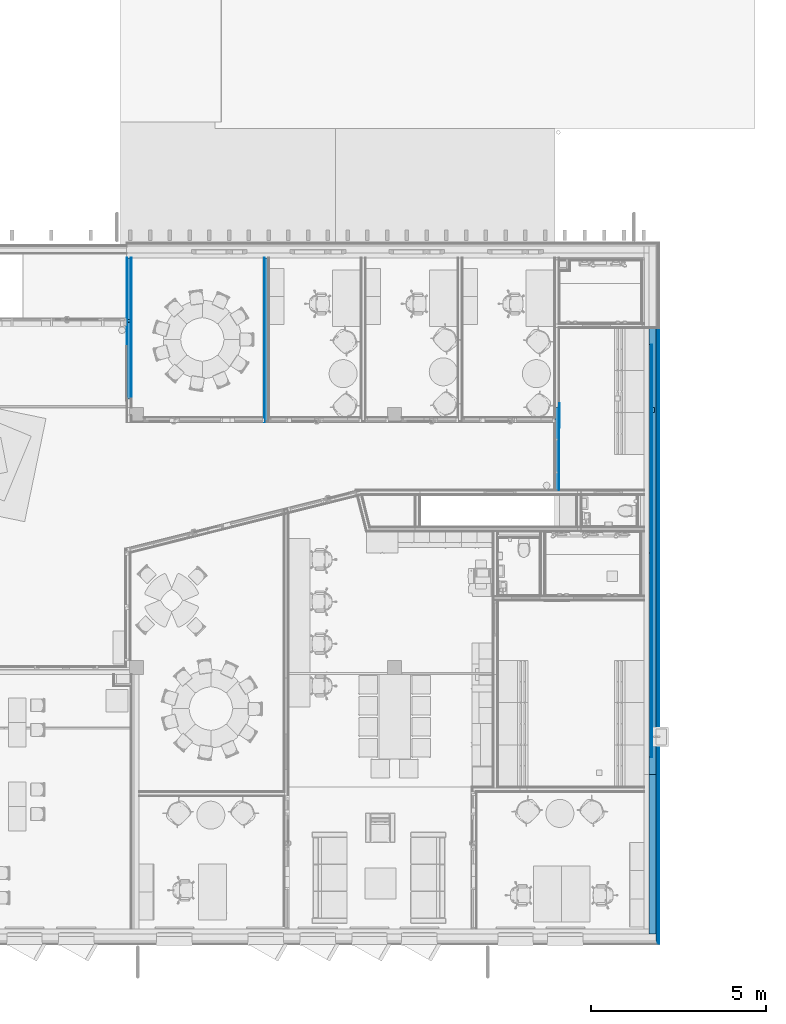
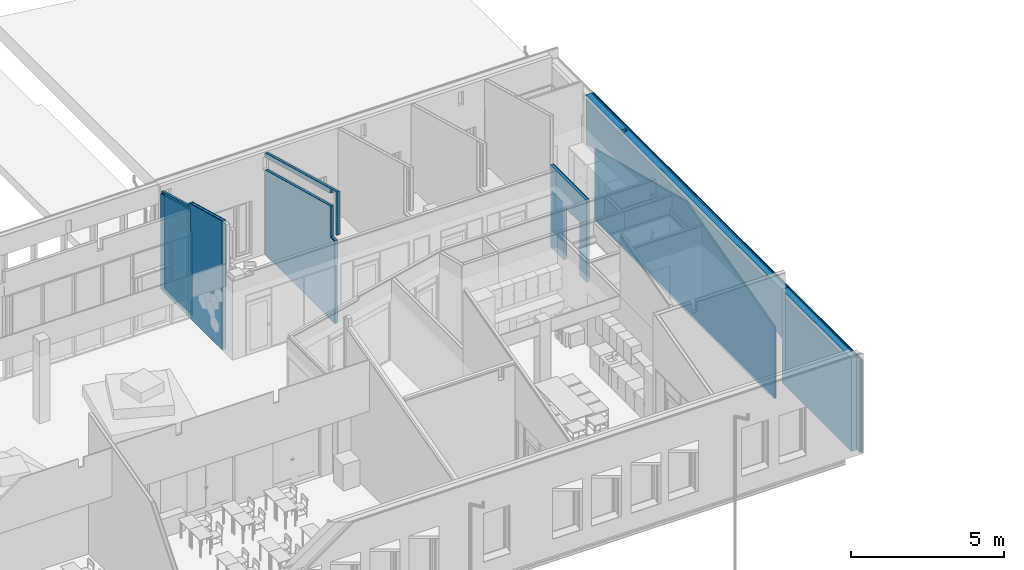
# One storey, part 86 of 153: 26 building element parts, 1 discrete accessory, 1 opening, 7 elements without a shape of their own.
"""IFC2X3 building model written with IfcOpenShell, lengths in millimetres."""

from ifc_helpers import new_model, entity, si_unit, converted_unit, derived_unit, money_unit, direction, frame, origin_with_axes, place, context, subcontext, project, spatial, faceted_brep, material, type_object, element, aggregate, save


model = new_model("IFC2X3")

# Units and contexts
model_context = context("Model", 3, precision=0.01, world=origin_with_axes(), true_north=direction((0.0, 1.0)))
body_context = subcontext(model_context, "Body", "Model", "MODEL_VIEW")
ifc_project = project(units=[si_unit("LENGTHUNIT", "METRE", prefix="MILLI"), si_unit("AREAUNIT", "SQUARE_METRE"), si_unit("VOLUMEUNIT", "CUBIC_METRE"), converted_unit("PLANEANGLEUNIT", "DEGREE", entity("IfcPlaneAngleMeasure", 0.0174532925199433), si_unit("PLANEANGLEUNIT", "RADIAN"), dimensions=[0, 0, 0, 0, 0, 0, 0]), money_unit("EUR"), converted_unit("TIMEUNIT", "Year", entity("IfcTimeMeasure", 31557600.0), si_unit("TIMEUNIT", "SECOND"), dimensions=[0, 0, 1, 0, 0, 0, 0]), si_unit("MASSUNIT", "GRAM", prefix="KILO"), si_unit("THERMODYNAMICTEMPERATUREUNIT", "DEGREE_CELSIUS"), si_unit("LUMINOUSINTENSITYUNIT", "LUMEN"), si_unit("ENERGYUNIT", "JOULE", prefix="MEGA"), derived_unit("THERMALCONDUCTANCEUNIT", [(si_unit("POWERUNIT", "WATT"), 1), (si_unit("LENGTHUNIT", "METRE"), -1), (si_unit("THERMODYNAMICTEMPERATUREUNIT", "KELVIN"), -1)]), derived_unit("SPECIFICHEATCAPACITYUNIT", [(si_unit("ENERGYUNIT", "JOULE"), 1), (si_unit("MASSUNIT", "GRAM", prefix="KILO"), -1), (si_unit("THERMODYNAMICTEMPERATUREUNIT", "KELVIN"), -1)]), derived_unit("MASSDENSITYUNIT", [(si_unit("MASSUNIT", "GRAM", prefix="KILO"), 1), (si_unit("VOLUMEUNIT", "CUBIC_METRE"), -1)])], contexts=[model_context])

# Site, building, storey
site_placement = place(None, frame((0.0, 0.0, 8650.0), z_axis=(0.0, 0.0, 1.0), x_axis=(1.0, 0.0, 0.0)))
site = spatial("IfcSite", under=ifc_project, at=site_placement, Name="43301:001:0844", CompositionType="ELEMENT")
building_placement = place(site_placement, origin_with_axes())
building = spatial("IfcBuilding", under=site, at=building_placement, Name="Kuressaare Ametikooli tuulikute mehaanikute õppekorpus", CompositionType="ELEMENT")
storey_placement = place(building_placement, frame((0.0, 0.0, 4100.0), z_axis=(0.0, 0.0, 1.0), x_axis=(1.0, 0.0, 0.0)))
storey = spatial("IfcBuildingStorey", under=building, at=storey_placement, Name="2.korrus", CompositionType="ELEMENT", Elevation=4100.0)

# Discrete accessory
ifc_material_1 = material(Name="GENEERILINE - SISEMINE VOODER")
discrete_accessory_type = type_object("IfcDiscreteAccessoryType", Name="GENEERILINE - SISEMINE VOODER 10")
discrete_accessory_placement = place(storey_placement, frame((130625.0683571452, 23404.06893436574, 500.0), z_axis=(0.0, 0.0, 1.0), x_axis=(-1.041563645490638e-06, 0.9999999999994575, 0.0)))
element("IfcDiscreteAccessory", 1, at=discrete_accessory_placement, inside=storey, type_object=discrete_accessory_type, material=ifc_material_1, Name="P3", context=body_context, shape_type="Brep", body=[
    faceted_brep([(0.0, 0.0, 1600.0), (699.9999999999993, 0.0, 1600.0), (700.0000000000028, 9.999999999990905, 1600.0), (0.0, 9.999999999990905, 1600.0), (0.0, 0.0, 0.0), (699.9999999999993, 0.0, 0.0), (700.0000000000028, 9.999999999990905, 0.0), (0.0, 9.999999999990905, 0.0)], [[[0, 1, 2, 3]], [[4, 5, 1, 0]], [[2, 1, 5, 6]], [[3, 2, 6, 7]], [[4, 0, 3, 7]], [[7, 6, 5, 4]]]),
])

# Wall, building element parts
wall_type_1 = type_object("IfcWallType", Name="VS1 437", PredefinedType="NOTDEFINED")
wall_1_placement = place(storey_placement, frame((133024.9464386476, 9123.838490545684, 0.0), z_axis=(0.0, 0.0, 1.0), x_axis=(0.0, 1.0, 0.0)))
wall_1 = element("IfcWall", 2, at=wall_1_placement, inside=storey, type_object=wall_type_1, Name="Sisesein")
ifc_material_2 = material(Name="Soojustus - Mineraalvill jäik")
building_element_part_1_placement = place(wall_1_placement, origin_with_axes())
building_element_part_1 = element("IfcBuildingElementPart", 3, at=building_element_part_1_placement, material=ifc_material_2, Name="Soojustus - Mineraalvill jäik", context=body_context, shape_type="Brep", body=[
    faceted_brep([(4393.819226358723, -139.9999999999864, 0.0), (4393.819226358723, -344.9999999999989, 0.0), (-140.0000000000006, -344.9999999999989, 0.0), (-140.0000000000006, -139.9999999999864, 0.0), (4393.819226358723, -139.9999999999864, 3699.999999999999), (4393.819226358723, -344.9999999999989, 3699.999999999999), (-140.0000000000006, -344.9999999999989, 3699.999999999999), (-140.0000000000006, -139.9999999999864, 3699.999999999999)], [[[0, 1, 2, 3]], [[0, 4, 5, 1]], [[1, 5, 6, 2]], [[3, 2, 6, 7]], [[4, 0, 3, 7]], [[5, 4, 7, 6]]]),
])
ifc_material_3 = material(Name="Air Space - Frame")
building_element_part_2_placement = place(wall_1_placement, origin_with_axes())
building_element_part_2 = element("IfcBuildingElementPart", 4, at=building_element_part_2_placement, material=ifc_material_3, Name="Air Space - Frame", context=body_context, shape_type="Brep", body=[
    faceted_brep([(4393.819226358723, -389.00000000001, 0.0), (4393.819226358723, -417.0000000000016, 0.0), (-388.9999999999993, -417.0000000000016, 0.0), (-388.9999999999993, -389.00000000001, 0.0), (4393.819226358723, -389.00000000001, 3699.999999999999), (4393.819226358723, -417.0000000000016, 3699.999999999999), (-388.9999999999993, -417.0000000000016, 3699.999999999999), (-388.9999999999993, -389.00000000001, 3699.999999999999)], [[[0, 1, 2, 3]], [[0, 4, 5, 1]], [[1, 5, 6, 2]], [[3, 2, 6, 7]], [[4, 0, 3, 7]], [[5, 4, 7, 6]]]),
])
building_element_part_3_placement = place(wall_1_placement, origin_with_axes())
building_element_part_3 = element("IfcBuildingElementPart", 5, at=building_element_part_3_placement, material=ifc_material_3, Name="Air Space - Frame", context=body_context, shape_type="Brep", body=[
    faceted_brep([(4393.819226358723, -344.9999999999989, 0.0), (4393.819226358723, -389.00000000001, 0.0), (-345.0000000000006, -389.00000000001, 0.0), (-345.0000000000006, -344.9999999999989, 0.0), (4393.819226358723, -344.9999999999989, 3699.999999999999), (4393.819226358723, -389.00000000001, 3699.999999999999), (-345.0000000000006, -389.00000000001, 3699.999999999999), (-345.0000000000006, -344.9999999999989, 3699.999999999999)], [[[0, 1, 2, 3]], [[0, 4, 5, 1]], [[1, 5, 6, 2]], [[3, 2, 6, 7]], [[4, 0, 3, 7]], [[5, 4, 7, 6]]]),
])
ifc_material_4 = material(Name="Puit - voodrilaud")
building_element_part_4_placement = place(wall_1_placement, origin_with_axes())
building_element_part_4 = element("IfcBuildingElementPart", 6, at=building_element_part_4_placement, material=ifc_material_4, Name="Puit - voodrilaud", context=body_context, shape_type="Brep", body=[
    faceted_brep([(4393.819226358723, -417.0000000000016, 0.0), (4393.819226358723, -437.0000000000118, 0.0), (-416.9999999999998, -437.0000000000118, 0.0), (-416.9999999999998, -417.0000000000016, 0.0), (4393.819226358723, -417.0000000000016, 3699.999999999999), (4393.819226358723, -437.0000000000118, 3699.999999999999), (-416.9999999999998, -437.0000000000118, 3699.999999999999), (-416.9999999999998, -417.0000000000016, 3699.999999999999)], [[[0, 1, 2, 3]], [[0, 4, 5, 1]], [[1, 5, 6, 2]], [[3, 2, 6, 7]], [[4, 0, 3, 7]], [[5, 4, 7, 6]]]),
])
aggregate(wall_1, [building_element_part_1, building_element_part_2, building_element_part_3, building_element_part_4])

wall_type_2 = type_object("IfcWallType", Name="SS-2.2 147", PredefinedType="NOTDEFINED")
wall_2_placement = place(storey_placement, frame((122344.0683571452, 23561.0689239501, 0.0), z_axis=(0.0, 0.0, 1.0), x_axis=(0.0, 1.0, 0.0)))
wall_2 = element("IfcWall", 7, at=wall_2_placement, inside=storey, type_object=wall_type_2, Name="Sisesein")
ifc_material_5 = material(Name="Kipsplaat")
building_element_part_5_placement = place(wall_2_placement, origin_with_axes())
building_element_part_5 = element("IfcBuildingElementPart", 8, at=building_element_part_5_placement, material=ifc_material_5, Name="Kipsplaat", context=body_context, shape_type="Brep", body=[
    faceted_brep([(4683.000000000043, 134.0000000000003, 0.0), (4683.000000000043, 134.0000000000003, 3363.212438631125), (4683.000000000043, 120.9999999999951, 3363.212438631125), (4683.000000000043, 120.9999999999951, 0.0), (412.9994084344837, 134.0000000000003, 3275.712739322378), (413.0000000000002, 134.0000000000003, 4507.355061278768), (134.0000000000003, 134.0000000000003, 0.0), (134.0000000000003, 134.0000000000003, 3275.712739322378), (413.0000000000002, 120.9999999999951, 4507.355061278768), (412.9994090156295, 120.9999999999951, 3275.712739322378), (134.0000000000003, 120.9999999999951, 3275.712739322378), (134.0000000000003, 120.9999999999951, 0.0)], [[[0, 1, 2, 3]], [[4, 5, 1, 0, 6, 7]], [[5, 8, 2, 1]], [[3, 2, 8, 9, 10, 11]], [[6, 0, 3, 11]], [[9, 8, 5, 4]], [[6, 11, 10, 7]], [[4, 7, 10, 9]]]),
    faceted_brep([(4683.000000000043, 134.0000000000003, 4037.106491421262), (4683.000000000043, 120.9999999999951, 4037.106490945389), (4683.000000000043, 120.9999999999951, 3880.850515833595), (4683.000000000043, 134.0000000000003, 3880.850515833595), (412.9936396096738, 120.9999999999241, 5203.806585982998), (412.9936322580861, 133.9999999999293, 5203.806588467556), (0.0, 134.0000000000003, 5316.649443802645), (0.0, 120.9999999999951, 5316.649443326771), (413.0000000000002, 120.9999999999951, 5024.993138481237), (413.0000000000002, 134.0000000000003, 5024.993138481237), (67.9931340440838, 134.0000000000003, 5203.804765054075), (67.9931340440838, 134.0000000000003, 3590.712739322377), (0.0, 134.0000000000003, 3590.712739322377), (0.0, 120.9999999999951, 3590.712739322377), (67.99314207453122, 120.9999999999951, 3590.712739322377), (67.99314207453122, 120.9999999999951, 5203.804765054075)], [[[0, 1, 2, 3]], [[4, 1, 0, 5, 6, 7]], [[1, 4, 8, 2]], [[9, 3, 2, 8]], [[5, 0, 3, 9]], [[6, 5, 10, 11, 12]], [[7, 6, 12, 13]], [[4, 7, 13, 14, 15]], [[5, 9, 8, 4]], [[15, 10, 5, 4]], [[10, 15, 14, 11]], [[13, 12, 11, 14]]]),
])
ifc_material_6 = material(Name="Soojustus - Mineraalvill pehme")
building_element_part_6_placement = place(wall_2_placement, origin_with_axes())
building_element_part_6 = element("IfcBuildingElementPart", 9, at=building_element_part_6_placement, material=ifc_material_6, Name="Soojustus - Mineraalvill pehme", context=body_context, shape_type="Brep", body=[
    faceted_brep([(4683.000000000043, 120.9999999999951, 0.0), (4683.000000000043, 120.9999999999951, 3363.212438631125), (4683.000000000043, 25.99999999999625, 3363.212438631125), (4683.000000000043, 25.99999999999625, 0.0), (412.9994090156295, 120.9999999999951, 3290.712739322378), (413.0000000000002, 120.9999999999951, 4507.355061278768), (120.9999999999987, 120.9999999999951, 0.0), (120.9999999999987, 120.9999999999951, 3290.712739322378), (413.0000000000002, 25.99999999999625, 4507.355061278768), (412.9994132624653, 25.99999999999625, 3290.712739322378), (120.9999999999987, 25.99999999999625, 3290.712739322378), (120.9999999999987, 25.99999999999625, 0.0)], [[[0, 1, 2, 3]], [[4, 5, 1, 0, 6, 7]], [[5, 8, 2, 1]], [[3, 2, 8, 9, 10, 11]], [[6, 0, 3, 11]], [[9, 8, 5, 4]], [[6, 11, 10, 7]], [[4, 7, 10, 9]]]),
    faceted_brep([(4683.000000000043, 120.9999999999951, 4037.106490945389), (4683.000000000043, 25.99999999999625, 4037.106487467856), (4683.000000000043, 25.99999999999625, 3880.850515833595), (4683.000000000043, 120.9999999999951, 3880.850515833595), (412.9936933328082, 25.99999999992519, 5203.806567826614), (412.9936396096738, 120.9999999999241, 5203.806585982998), (0.0, 120.9999999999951, 5316.649443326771), (0.0, 25.99999999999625, 5316.649439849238), (413.0000000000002, 25.99999999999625, 5024.993138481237), (413.0000000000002, 120.9999999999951, 5024.993138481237), (67.99314207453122, 120.9999999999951, 5203.804765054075), (67.99314207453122, 120.9999999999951, 3590.712739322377), (0.0, 120.9999999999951, 3590.712739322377), (0.0, 25.99999999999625, 3590.712739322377), (67.99320075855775, 25.99999999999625, 3590.712739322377), (67.99320075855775, 25.99999999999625, 5203.804765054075)], [[[0, 1, 2, 3]], [[4, 1, 0, 5, 6, 7]], [[1, 4, 8, 2]], [[9, 3, 2, 8]], [[5, 0, 3, 9]], [[6, 5, 10, 11, 12]], [[7, 6, 12, 13]], [[4, 7, 13, 14, 15]], [[5, 9, 8, 4]], [[15, 10, 5, 4]], [[10, 15, 14, 11]], [[13, 12, 11, 14]]]),
])
aggregate(wall_2, [building_element_part_5, building_element_part_6])

# Wall, opening, building element parts
wall_3_placement = place(storey_placement, frame((130468.0683571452, 21634.06892395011, 0.0), z_axis=(0.0, 0.0, 1.0), x_axis=(0.0, 1.0, 0.0)))
wall_3 = element("IfcWall", 10, at=wall_3_placement, inside=storey, type_object=wall_type_2, Name="Sisesein")
opening_placement = place(wall_3_placement, frame((964.9999999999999, 0.0, 0.0), z_axis=(0.0, 0.0, 1.0), x_axis=(1.0, 0.0, 0.0)))
element("IfcOpeningElement", 11, at=opening_placement, cuts=wall_3, Name="PU10,dB", context=body_context, shape_type="Brep", body=[
    faceted_brep([(-504.999999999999, -147.9999999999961, 2110.0), (-504.999999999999, -147.9999999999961, 0.0), (504.999999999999, -147.9999999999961, 0.0), (504.999999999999, -147.9999999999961, 2110.0), (-504.999999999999, 1.000000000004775, 2110.0), (-504.999999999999, 1.000000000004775, 0.0), (504.999999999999, 1.000000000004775, 0.0), (504.999999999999, 1.000000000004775, 2110.0)], [[[0, 1, 2, 3]], [[4, 5, 1, 0]], [[5, 6, 2, 1]], [[6, 7, 3, 2]], [[7, 4, 0, 3]], [[6, 5, 4, 7]]]),
])
building_element_part_7_placement = place(wall_3_placement, origin_with_axes())
building_element_part_7 = element("IfcBuildingElementPart", 12, at=building_element_part_7_placement, material=ifc_material_5, Name="Kipsplaat", context=body_context, shape_type="Brep", body=[
    faceted_brep([(460.0000000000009, -133.9999999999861, 0.0), (460.0000000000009, -133.9999999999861, 2110.0), (1469.999999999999, -133.9999999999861, 2110.0), (1469.999999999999, -133.9999999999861, 0.0), (2339.999777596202, -133.9999999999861, 0.0), (2339.999777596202, -133.9999999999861, 3260.712739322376), (-13.00000000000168, -133.9999999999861, 3260.712739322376), (-13.00000000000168, -133.9999999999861, 0.0), (460.0000000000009, -121.0000000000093, 0.0), (460.0000000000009, -121.0000000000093, 2110.0), (1469.999999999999, -121.0000000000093, 2110.0), (1469.999999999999, -121.0000000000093, 0.0), (2339.999777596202, -121.0000000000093, 0.0), (2339.999777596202, -121.0000000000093, 3260.712739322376), (-13.00000000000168, -121.0000000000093, 3260.712739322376), (-13.00000000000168, -121.0000000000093, 0.0)], [[[0, 1, 2, 3, 4, 5, 6, 7]], [[1, 0, 8, 9]], [[2, 1, 9, 10]], [[3, 2, 10, 11]], [[3, 11, 12, 4]], [[13, 5, 4, 12]], [[13, 14, 6, 5]], [[7, 6, 14, 15]], [[8, 0, 7, 15]], [[9, 8, 15, 14, 13, 12, 11, 10]]]),
])
building_element_part_8_placement = place(wall_3_placement, origin_with_axes())
building_element_part_8 = element("IfcBuildingElementPart", 13, at=building_element_part_8_placement, material=ifc_material_5, Name="Kipsplaat", context=body_context, shape_type="Brep", body=[
    faceted_brep([(460.0000000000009, -146.9999999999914, 0.0), (460.0000000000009, -146.9999999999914, 2110.0), (1469.999999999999, -146.9999999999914, 2110.0), (1469.999999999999, -146.9999999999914, 0.0), (2339.999777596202, -146.9999999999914, 0.0), (2339.999777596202, -146.9999999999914, 3260.712739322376), (0.0, -146.9999999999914, 3260.712739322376), (0.0, -146.9999999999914, 0.0), (460.0000000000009, -133.9999999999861, 0.0), (460.0000000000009, -133.9999999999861, 2110.0), (1469.999999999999, -133.9999999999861, 2110.0), (1469.999999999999, -133.9999999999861, 0.0), (2339.999777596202, -133.9999999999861, 0.0), (2339.999777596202, -133.9999999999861, 3260.712739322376), (0.0, -133.9999999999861, 3260.712739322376), (0.0, -133.9999999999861, 0.0)], [[[0, 1, 2, 3, 4, 5, 6, 7]], [[1, 0, 8, 9]], [[2, 1, 9, 10]], [[3, 2, 10, 11]], [[3, 11, 12, 4]], [[13, 5, 4, 12]], [[13, 14, 6, 5]], [[7, 6, 14, 15]], [[8, 0, 7, 15]], [[9, 8, 15, 14, 13, 12, 11, 10]]]),
])
building_element_part_9_placement = place(wall_3_placement, origin_with_axes())
building_element_part_9 = element("IfcBuildingElementPart", 14, at=building_element_part_9_placement, material=ifc_material_6, Name="Soojustus - Mineraalvill pehme", context=body_context, shape_type="Brep", body=[
    faceted_brep([(460.0000000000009, -121.0000000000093, 0.0), (460.0000000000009, -121.0000000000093, 2110.0), (1469.999999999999, -121.0000000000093, 2110.0), (1469.999999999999, -121.0000000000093, 0.0), (2339.999777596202, -121.0000000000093, 0.0), (2339.999777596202, -121.0000000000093, 3260.712739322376), (-25.9999999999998, -121.0000000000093, 3260.712739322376), (-25.9999999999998, -121.0000000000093, 0.0), (460.0000000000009, -26.00000000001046, 0.0), (460.0000000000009, -26.00000000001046, 2110.0), (1469.999999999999, -26.00000000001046, 2110.0), (1469.999999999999, -26.00000000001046, 0.0), (2339.999777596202, -26.00000000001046, 0.0), (2339.999777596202, -26.00000000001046, 3260.712739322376), (-25.9999999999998, -26.00000000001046, 3260.712739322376), (-25.9999999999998, -26.00000000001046, 0.0)], [[[0, 1, 2, 3, 4, 5, 6, 7]], [[1, 0, 8, 9]], [[2, 1, 9, 10]], [[3, 2, 10, 11]], [[3, 11, 12, 4]], [[13, 5, 4, 12]], [[13, 14, 6, 5]], [[7, 6, 14, 15]], [[8, 0, 7, 15]], [[9, 8, 15, 14, 13, 12, 11, 10]]]),
])
aggregate(wall_3, [building_element_part_7, building_element_part_8, building_element_part_9])

# Wall, building element parts
wall_type_3 = type_object("IfcWallType", Name="SS-2.1 147", PredefinedType="NOTDEFINED")
wall_4_placement = place(storey_placement, frame((118281.2757303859, 26409.57374875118, 0.0), z_axis=(0.0, 0.0, 1.0), x_axis=(0.0, 1.0, 0.0)))
wall_4 = element("IfcWall", 15, at=wall_4_placement, inside=storey, type_object=wall_type_3, Name="Sisesein")
building_element_part_10_placement = place(wall_4_placement, origin_with_axes())
building_element_part_10 = element("IfcBuildingElementPart", 16, at=building_element_part_10_placement, material=ifc_material_5, Name="Kipsplaat", context=body_context, shape_type="Brep", body=[
    faceted_brep([(1834.495175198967, -5.515573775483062e-06, 3798.675269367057), (1834.495175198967, -13.00000000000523, 3798.67526889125), (1834.495175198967, -13.00000000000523, 0.0), (1834.495175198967, -5.515573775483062e-06, 0.0), (100.0000000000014, -13.00000000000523, 4272.528751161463), (100.0000000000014, 2.612168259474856e-06, 4272.528751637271), (100.0000000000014, -13.00000000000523, 3332.284635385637), (0.0, -13.00000000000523, 3332.284635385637), (0.0, -13.00000000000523, 0.0), (0.0, 0.0, 0.0), (0.0, 0.0, 3332.284635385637), (100.0000000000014, 2.612168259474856e-06, 3332.284635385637)], [[[0, 1, 2, 3]], [[4, 1, 0, 5]], [[1, 4, 6, 7, 8, 2]], [[9, 3, 2, 8]], [[5, 0, 3, 9, 10, 11]], [[4, 5, 11, 6]], [[7, 6, 11, 10]], [[8, 7, 10, 9]]]),
])
building_element_part_11_placement = place(wall_4_placement, origin_with_axes())
building_element_part_11 = element("IfcBuildingElementPart", 17, at=building_element_part_11_placement, material=ifc_material_5, Name="Kipsplaat", context=body_context, shape_type="Brep", body=[
    faceted_brep([(1834.495175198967, -13.00000000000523, 3814.224958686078), (1834.495175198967, -25.99999999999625, 3814.22495821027), (1834.495175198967, -25.99999999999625, 0.0), (1834.495175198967, -13.00000000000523, 0.0), (87.0000000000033, -25.99999999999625, 4291.629961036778), (87.0000000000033, -13.00000000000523, 4291.629961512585), (87.0000000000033, -25.99999999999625, 3332.284635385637), (0.0, -25.99999999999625, 3332.284635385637), (0.0, -25.99999999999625, 0.0), (0.0, -13.00000000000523, 0.0), (0.0, -13.00000000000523, 3332.284635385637), (87.0000000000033, -13.00000000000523, 3332.284635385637)], [[[0, 1, 2, 3]], [[4, 1, 0, 5]], [[1, 4, 6, 7, 8, 2]], [[9, 3, 2, 8]], [[5, 0, 3, 9, 10, 11]], [[4, 5, 11, 6]], [[7, 6, 11, 10]], [[8, 7, 10, 9]]]),
])
building_element_part_12_placement = place(wall_4_placement, origin_with_axes())
building_element_part_12 = element("IfcBuildingElementPart", 18, at=building_element_part_12_placement, material=ifc_material_6, Name="Soojustus - Mineraalvill pehme", context=body_context, shape_type="Brep", body=[
    faceted_brep([(5.450955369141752, -25.99999999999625, 4381.290650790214), (5.450942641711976, -120.9999999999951, 4381.290650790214), (0.0, -120.9999999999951, 4381.290650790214), (0.0, -25.99999999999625, 4381.290650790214), (0.0, -120.9999999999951, 4382.779815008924), (0.0, -25.99999999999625, 4382.77981848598)], [[[0, 1, 2, 3]], [[4, 1, 0, 5]], [[1, 4, 2]], [[4, 5, 3, 2]], [[5, 0, 3]]]),
    faceted_brep([(1834.495175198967, -25.99999999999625, 3881.606947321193), (1834.495175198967, -120.9999999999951, 3881.606943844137), (1834.495175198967, -120.9999999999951, 0.0), (1834.495175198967, -25.99999999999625, 0.0), (74.00000000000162, -120.9999999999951, 4362.56346722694), (74.00000000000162, -25.99999999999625, 4362.563470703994), (74.00000000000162, -120.9999999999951, 3332.284635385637), (0.0, -120.9999999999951, 3332.284635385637), (0.0, -120.9999999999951, 0.0), (0.0, -25.99999999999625, 0.0), (0.0, -25.99999999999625, 3332.284635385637), (74.00000000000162, -25.99999999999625, 3332.284635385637)], [[[0, 1, 2, 3]], [[4, 1, 0, 5]], [[1, 4, 6, 7, 8, 2]], [[9, 3, 2, 8]], [[5, 0, 3, 9, 10, 11]], [[4, 5, 11, 6]], [[10, 7, 6, 11]], [[8, 7, 10, 9]]]),
])
building_element_part_13_placement = place(wall_4_placement, origin_with_axes())
building_element_part_13 = element("IfcBuildingElementPart", 19, at=building_element_part_13_placement, material=ifc_material_5, Name="Kipsplaat", context=body_context, shape_type="Brep", body=[
    faceted_brep([(1834.495175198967, -134.0000000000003, 3798.675264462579), (1834.495175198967, -147.0000000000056, 3798.675263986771), (1834.495175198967, -147.0000000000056, 0.0), (1834.495175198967, -134.0000000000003, 0.0), (100.0000000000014, -147.0000000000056, 4272.528746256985), (100.0000000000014, -134.0000000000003, 4272.528746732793), (100.0000000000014, -147.0000000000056, 3332.284635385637), (0.0, -147.0000000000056, 3332.284635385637), (0.0, -147.0000000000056, 0.0), (0.0, -134.0000000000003, 0.0), (0.0, -134.0000000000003, 3332.284635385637), (100.0000000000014, -134.0000000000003, 3332.284635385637)], [[[0, 1, 2, 3]], [[4, 1, 0, 5]], [[1, 4, 6, 7, 8, 2]], [[9, 3, 2, 8]], [[5, 0, 3, 9, 10, 11]], [[4, 5, 11, 6]], [[7, 6, 11, 10]], [[8, 7, 10, 9]]]),
])
building_element_part_14_placement = place(wall_4_placement, origin_with_axes())
building_element_part_14 = element("IfcBuildingElementPart", 20, at=building_element_part_14_placement, material=ifc_material_5, Name="Kipsplaat", context=body_context, shape_type="Brep", body=[
    faceted_brep([(1834.495175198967, -120.9999999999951, 3814.224954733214), (1834.495175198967, -134.0000000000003, 3814.224954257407), (1834.495175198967, -134.0000000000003, 0.0), (1834.495175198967, -120.9999999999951, 0.0), (87.0000000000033, -134.0000000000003, 4291.629957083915), (87.0000000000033, -120.9999999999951, 4291.629957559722), (87.0000000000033, -134.0000000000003, 3332.284635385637), (0.0, -134.0000000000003, 3332.284635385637), (0.0, -134.0000000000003, 0.0), (0.0, -120.9999999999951, 0.0), (0.0, -120.9999999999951, 3332.284635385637), (87.0000000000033, -120.9999999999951, 3332.284635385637)], [[[0, 1, 2, 3]], [[4, 1, 0, 5]], [[1, 4, 6, 7, 8, 2]], [[9, 3, 2, 8]], [[5, 0, 3, 9, 10, 11]], [[4, 5, 11, 6]], [[7, 6, 11, 10]], [[8, 7, 10, 9]]]),
])
aggregate(wall_4, [building_element_part_10, building_element_part_11, building_element_part_12, building_element_part_13, building_element_part_14])

wall_type_4 = type_object("IfcWallType", Name="SS-2.5* 96", PredefinedType="NOTDEFINED")
wall_5_placement = place(storey_placement, frame((133164.946441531, 14017.65771690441, -964.9999999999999), z_axis=(0.0, 0.0, 1.0), x_axis=(0.0, 1.0, 0.0)))
wall_5 = element("IfcWall", 21, at=wall_5_placement, inside=storey, type_object=wall_type_4, Name="Sisesein")
building_element_part_15_placement = place(wall_5_placement, origin_with_axes())
building_element_part_15 = element("IfcBuildingElementPart", 22, at=building_element_part_15_placement, material=ifc_material_5, Name="Kipsplaat", context=body_context, shape_type="Brep", body=[
    faceted_brep([(11757.33571352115, -66.0000000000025, 2828.780735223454), (11757.33571352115, -80.99999999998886, 2828.780735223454), (11757.33571352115, -80.99999999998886, 0.0), (11757.33571352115, -66.0000000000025, 0.0), (5810.728071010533, -80.99999999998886, 4345.50274537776), (5810.728071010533, -66.0000000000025, 4345.50274537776), (0.0, -80.99999999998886, 2844.184994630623), (0.0, -80.99999999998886, 0.0), (0.0, -66.0000000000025, 0.0), (0.0, -66.0000000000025, 2844.184994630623)], [[[0, 1, 2, 3]], [[4, 1, 0, 5]], [[1, 4, 6, 7, 2]], [[7, 8, 3, 2]], [[5, 0, 3, 8, 9]], [[4, 5, 9, 6]], [[7, 6, 9, 8]]]),
])
building_element_part_16_placement = place(wall_5_placement, origin_with_axes())
building_element_part_16 = element("IfcBuildingElementPart", 23, at=building_element_part_16_placement, material=ifc_material_6, Name="Soojustus - Mineraalvill pehme", context=body_context, shape_type="Brep", body=[
    faceted_brep([(11757.33571352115, 2.883467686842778e-06, 2828.780735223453), (11757.33571352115, -66.0000000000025, 2828.780735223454), (11757.33571352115, -66.0000000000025, 0.0), (11757.33571352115, 0.0, 0.0), (5810.728071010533, -66.0000000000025, 4345.50274537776), (5810.728071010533, 2.883467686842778e-06, 4345.50274537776), (0.0, -66.0000000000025, 2844.184994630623), (0.0, -66.0000000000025, 0.0), (0.0, 0.0, 0.0), (0.0, 2.883496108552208e-06, 2844.184994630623)], [[[0, 1, 2, 3]], [[4, 1, 0, 5]], [[1, 4, 6, 7, 2]], [[7, 8, 3, 2]], [[5, 0, 3, 8, 9]], [[4, 5, 9, 6]], [[7, 6, 9, 8]]]),
])
building_element_part_17_placement = place(wall_5_placement, origin_with_axes())
building_element_part_17 = element("IfcBuildingElementPart", 24, at=building_element_part_17_placement, material=ifc_material_5, Name="Kipsplaat", context=body_context, shape_type="Brep", body=[
    faceted_brep([(11757.33571352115, -80.99999999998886, 2828.780735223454), (11757.33571352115, -96.00000000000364, 2828.780735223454), (11757.33571352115, -96.00000000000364, 0.0), (11757.33571352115, -80.99999999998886, 0.0), (5810.728071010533, -96.00000000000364, 4345.50274537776), (5810.728071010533, -80.99999999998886, 4345.50274537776), (0.0, -96.00000000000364, 2844.184994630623), (0.0, -96.00000000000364, 0.0), (0.0, -80.99999999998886, 0.0), (0.0, -80.99999999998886, 2844.184994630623)], [[[0, 1, 2, 3]], [[4, 1, 0, 5]], [[1, 4, 6, 7, 2]], [[7, 8, 3, 2]], [[5, 0, 3, 8, 9]], [[4, 5, 9, 6]], [[7, 6, 9, 8]]]),
])
aggregate(wall_5, [building_element_part_15, building_element_part_16, building_element_part_17])

wall_6_placement = place(storey_placement, frame((118281.2757303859, 24223.06892395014, 0.0), z_axis=(0.0, 0.0, 1.0), x_axis=(0.0, 1.0, 0.0)))
wall_6 = element("IfcWall", 25, at=wall_6_placement, inside=storey, type_object=wall_type_2, Name="Sisesein")
building_element_part_18_placement = place(wall_6_placement, origin_with_axes())
building_element_part_18 = element("IfcBuildingElementPart", 26, at=building_element_part_18_placement, material=ifc_material_5, Name="Kipsplaat", context=body_context, shape_type="Brep", body=[
    faceted_brep([(2186.504824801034, 0.0, 4538.348440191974), (2186.504824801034, -13.00000000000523, 4538.348439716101), (2186.504824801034, -13.00000000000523, 0.0), (2186.504824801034, 0.0, 0.0), (-1.769322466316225e-07, -13.00000000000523, 5135.770357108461), (-1.766835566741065e-07, 0.0, 5135.770357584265), (0.0, -13.00000000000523, 0.0), (0.0, 0.0, 0.0)], [[[0, 1, 2, 3]], [[4, 1, 0, 5]], [[1, 4, 6, 2]], [[6, 7, 3, 2]], [[5, 0, 3, 7]], [[4, 5, 7, 6]]]),
])
building_element_part_19_placement = place(wall_6_placement, origin_with_axes())
building_element_part_19 = element("IfcBuildingElementPart", 27, at=building_element_part_19_placement, material=ifc_material_5, Name="Kipsplaat", context=body_context, shape_type="Brep", body=[
    faceted_brep([(2186.504824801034, -13.00000000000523, 4538.348439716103), (2186.504824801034, -25.99999999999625, 4538.348439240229), (2186.504824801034, -25.99999999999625, 0.0), (2186.504824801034, -13.00000000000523, 0.0), (-1.771809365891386e-07, -25.99999999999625, 5135.770356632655), (-1.769322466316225e-07, -13.00000000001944, 5135.770357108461), (0.0, -25.99999999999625, 0.0), (0.0, -13.00000000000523, 0.0)], [[[0, 1, 2, 3]], [[4, 1, 0, 5]], [[1, 4, 6, 2]], [[6, 7, 3, 2]], [[5, 0, 3, 7]], [[4, 5, 7, 6]]]),
])
building_element_part_20_placement = place(wall_6_placement, origin_with_axes())
building_element_part_20 = element("IfcBuildingElementPart", 28, at=building_element_part_20_placement, material=ifc_material_6, Name="Soojustus - Mineraalvill pehme", context=body_context, shape_type="Brep", body=[
    faceted_brep([(2186.504824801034, -25.99999999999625, 4538.348439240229), (2186.504824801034, -120.9999999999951, 4538.348435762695), (2186.504824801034, -120.9999999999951, 0.0), (2186.504824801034, -25.99999999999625, 0.0), (0.0, -120.9999999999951, 5135.770353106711), (-1.771809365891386e-07, -26.00000000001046, 5135.770356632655), (-1.776392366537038e-07, -49.965528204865, 5135.770355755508), (0.0, -120.9999999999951, 0.0), (0.0, -25.99999999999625, 0.0)], [[[0, 1, 2, 3]], [[4, 1, 0, 5, 6]], [[1, 4, 7, 2]], [[7, 8, 3, 2]], [[5, 0, 3, 8]], [[6, 5, 8, 7, 4]]]),
])
building_element_part_21_placement = place(wall_6_placement, origin_with_axes())
building_element_part_21 = element("IfcBuildingElementPart", 29, at=building_element_part_21_placement, material=ifc_material_5, Name="Kipsplaat", context=body_context, shape_type="Brep", body=[
    faceted_brep([(2186.504824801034, -120.9999999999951, 4538.348435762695), (2186.504824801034, -134.0000000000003, 4538.348435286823), (2186.504824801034, -134.0000000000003, 0.0), (2186.504824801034, -120.9999999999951, 0.0), (0.0, -134.0000000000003, 5135.770352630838), (0.0, -120.9999999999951, 5135.770353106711), (0.0, -134.0000000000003, 0.0), (0.0, -120.9999999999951, 0.0)], [[[0, 1, 2, 3]], [[4, 1, 0, 5]], [[1, 4, 6, 2]], [[6, 7, 3, 2]], [[5, 0, 3, 7]], [[4, 5, 7, 6]]]),
])
building_element_part_22_placement = place(wall_6_placement, origin_with_axes())
building_element_part_22 = element("IfcBuildingElementPart", 30, at=building_element_part_22_placement, material=ifc_material_5, Name="Kipsplaat", context=body_context, shape_type="Brep", body=[
    faceted_brep([(2186.504824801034, -134.0000000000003, 4538.348435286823), (2186.504824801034, -147.0000000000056, 4538.348434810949), (2186.504824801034, -147.0000000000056, 0.0), (2186.504824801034, -134.0000000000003, 0.0), (0.0, -147.0000000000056, 5135.770352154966), (0.0, -134.0000000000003, 5135.770352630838), (0.0, -147.0000000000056, 0.0), (0.0, -134.0000000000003, 0.0)], [[[0, 1, 2, 3]], [[4, 1, 0, 5]], [[1, 4, 6, 2]], [[6, 7, 3, 2]], [[5, 0, 3, 7]], [[4, 5, 7, 6]]]),
])
aggregate(wall_6, [building_element_part_18, building_element_part_19, building_element_part_20, building_element_part_21, building_element_part_22])

wall_7_placement = place(storey_placement, frame((133024.9464386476, 13517.6577169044, 1749.999999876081), z_axis=(0.0, 0.0, 1.0), x_axis=(0.0, 1.0, 0.0)))
wall_7 = element("IfcWall", 31, at=wall_7_placement, inside=storey, type_object=wall_type_1, Name="Sisesein")
building_element_part_23_placement = place(wall_7_placement, origin_with_axes())
building_element_part_23 = element("IfcBuildingElementPart", 32, at=building_element_part_23_placement, material=ifc_material_2, Name="Soojustus - Mineraalvill jäik", context=body_context, shape_type="Brep", body=[
    faceted_brep([(6310.728071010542, -344.9999999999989, 1630.502745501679), (12703.43551681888, -344.9999999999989, 0.0), (12775.3309458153, -344.9999999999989, 0.0), (12775.3309458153, -344.9999999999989, 1950.000000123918), (0.0, -344.9999999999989, 1950.000000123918), (0.0, -344.9999999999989, 0.0), (12703.43551681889, -140.0000000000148, 0.0), (6310.728071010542, -140.0000000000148, 1630.502745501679), (12775.3309458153, -139.9999999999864, 0.0), (12775.3309458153, -139.9999999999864, 1950.000000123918), (10456.41110820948, -139.9999999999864, 1950.000000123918), (10456.41120704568, -299.9999135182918, 1950.000000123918), (10316.4112070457, -300.0000000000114, 1950.000000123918), (10316.41110820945, -139.9999999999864, 1950.000000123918), (0.0, -139.9999999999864, 1950.000000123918), (0.0, -139.9999999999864, 0.0), (10316.41110820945, -139.9999999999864, 1840.712739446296), (10456.41110820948, -139.9999999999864, 1840.712739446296), (10456.41120704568, -299.9999135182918, 1840.712739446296), (10316.4112070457, -300.0000000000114, 1840.712739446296)], [[[0, 1, 2, 3, 4, 5]], [[6, 1, 0, 7]], [[1, 6, 8, 2]], [[9, 3, 2, 8]], [[10, 11, 12, 13, 14, 4, 3, 9]], [[14, 15, 5, 4]], [[7, 0, 5, 15]], [[6, 7, 15, 14, 13, 16, 17, 10, 9, 8]], [[17, 18, 11, 10]], [[18, 19, 12, 11]], [[19, 16, 13, 12]], [[19, 18, 17, 16]]]),
])
building_element_part_24_placement = place(wall_7_placement, origin_with_axes())
building_element_part_24 = element("IfcBuildingElementPart", 33, at=building_element_part_24_placement, material=ifc_material_3, Name="Air Space - Frame", context=body_context, shape_type="Brep", body=[
    faceted_brep([(6310.728071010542, -417.0000000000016, 1630.50274550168), (12703.43551681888, -417.0000000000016, 0.0), (12775.3309458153, -417.0000000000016, 0.0), (12775.3309458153, -417.0000000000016, 1950.000000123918), (0.0, -417.0000000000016, 1950.000000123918), (0.0, -417.0000000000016, 0.0), (12703.43551681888, -389.00000000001, 0.0), (6310.728071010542, -389.00000000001, 1630.50274550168), (12775.3309458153, -389.00000000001, 0.0), (12775.3309458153, -389.00000000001, 1950.000000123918), (0.0, -389.00000000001, 1950.000000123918), (0.0, -389.00000000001, 0.0)], [[[0, 1, 2, 3, 4, 5]], [[6, 1, 0, 7]], [[1, 6, 8, 2]], [[3, 2, 8, 9]], [[10, 4, 3, 9]], [[10, 11, 5, 4]], [[7, 0, 5, 11]], [[6, 7, 11, 10, 9, 8]]]),
])
building_element_part_25_placement = place(wall_7_placement, origin_with_axes())
building_element_part_25 = element("IfcBuildingElementPart", 34, at=building_element_part_25_placement, material=ifc_material_3, Name="Air Space - Frame", context=body_context, shape_type="Brep", body=[
    faceted_brep([(6310.728071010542, -389.00000000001, 1630.502745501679), (12703.43551681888, -389.00000000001, 0.0), (12775.3309458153, -389.00000000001, 0.0), (12775.3309458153, -389.00000000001, 1950.000000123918), (0.0, -389.00000000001, 1950.000000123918), (0.0, -389.00000000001, 0.0), (12703.43551681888, -344.9999999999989, 0.0), (6310.728071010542, -344.9999999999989, 1630.502745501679), (12775.3309458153, -344.9999999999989, 0.0), (12775.3309458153, -344.9999999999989, 1950.000000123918), (0.0, -344.9999999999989, 1950.000000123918), (0.0, -344.9999999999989, 0.0)], [[[0, 1, 2, 3, 4, 5]], [[6, 1, 0, 7]], [[1, 6, 8, 2]], [[3, 2, 8, 9]], [[10, 4, 3, 9]], [[10, 11, 5, 4]], [[7, 0, 5, 11]], [[6, 7, 11, 10, 9, 8]]]),
])
building_element_part_26_placement = place(wall_7_placement, origin_with_axes())
building_element_part_26 = element("IfcBuildingElementPart", 35, at=building_element_part_26_placement, material=ifc_material_4, Name="Puit - voodrilaud", context=body_context, shape_type="Brep", body=[
    faceted_brep([(6310.728071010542, -437.0000000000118, 1630.50274550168), (12703.43551681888, -437.0000000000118, 0.0), (12775.3309458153, -437.0000000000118, 0.0), (12775.3309458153, -437.0000000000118, 1950.000000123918), (0.0, -437.0000000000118, 1950.000000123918), (0.0, -437.0000000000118, 0.0), (12703.43551681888, -417.0000000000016, 0.0), (6310.728071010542, -417.0000000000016, 1630.50274550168), (12775.3309458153, -417.0000000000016, 0.0), (12775.3309458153, -417.0000000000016, 1950.000000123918), (0.0, -417.0000000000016, 1950.000000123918), (0.0, -417.0000000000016, 0.0)], [[[0, 1, 2, 3, 4, 5]], [[6, 1, 0, 7]], [[1, 6, 8, 2]], [[3, 2, 8, 9]], [[10, 4, 3, 9]], [[10, 11, 5, 4]], [[7, 0, 5, 11]], [[6, 7, 11, 10, 9, 8]]]),
])
aggregate(wall_7, [building_element_part_23, building_element_part_24, building_element_part_25, building_element_part_26])

save(model, "model.ifc")
